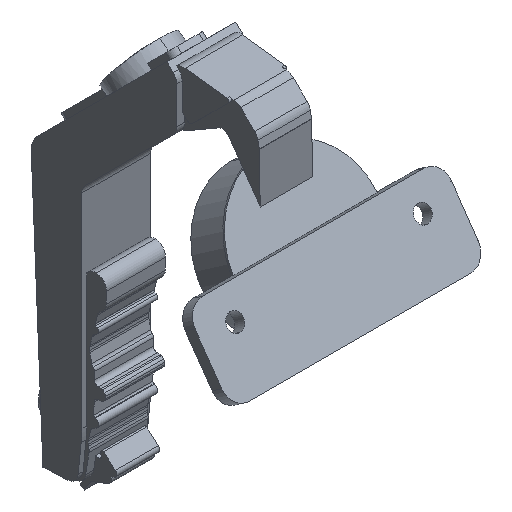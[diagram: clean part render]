
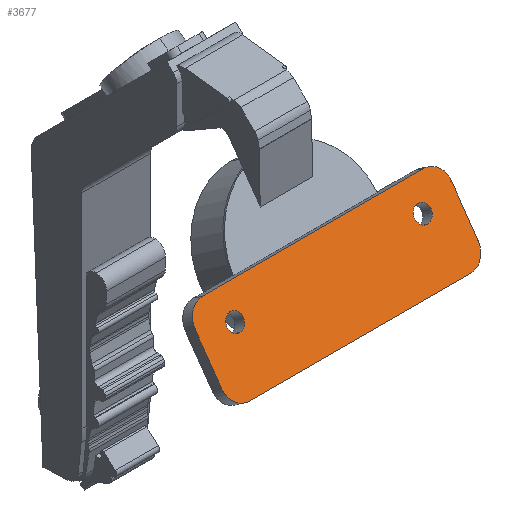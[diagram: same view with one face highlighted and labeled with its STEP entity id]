
A CAD part, isometric view. The second image highlights one B-rep face of the part: STEP entity #3677.
In plain terms, the highlighted planar face has unit normal (0, -0.822, 0.569).
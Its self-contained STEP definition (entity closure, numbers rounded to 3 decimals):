
#61 = ORIENTED_EDGE ( 'NONE', *, *, #4697, .T. ) ;
#73 = LINE ( 'NONE', #501, #524 ) ;
#77 = DIRECTION ( 'NONE',  ( 0., -0.822, 0.569 ) ) ;
#78 = AXIS2_PLACEMENT_3D ( 'NONE', #5020, #2570, #4207 ) ;
#109 = LINE ( 'NONE', #1730, #1526 ) ;
#138 = ORIENTED_EDGE ( 'NONE', *, *, #1751, .T. ) ;
#162 = DIRECTION ( 'NONE',  ( 0., -0.569, -0.822 ) ) ;
#178 = EDGE_CURVE ( 'NONE', #5320, #2397, #2183, .T. ) ;
#218 = CARTESIAN_POINT ( 'NONE',  ( -24., -52.951, 60.583 ) ) ;
#315 = FACE_OUTER_BOUND ( 'NONE', #2088, .T. ) ;
#353 = VERTEX_POINT ( 'NONE', #4187 ) ;
#501 = CARTESIAN_POINT ( 'NONE',  ( 35.3, -62.337, 47.012 ) ) ;
#524 = VECTOR ( 'NONE', #4969, 1000. ) ;
#565 = EDGE_CURVE ( 'NONE', #353, #2168, #1514, .T. ) ;
#569 = CARTESIAN_POINT ( 'NONE',  ( -15.2, -54.43, 58.444 ) ) ;
#603 = CARTESIAN_POINT ( 'NONE',  ( 32.8, -53.235, 60.171 ) ) ;
#607 = ORIENTED_EDGE ( 'NONE', *, *, #1105, .T. ) ;
#673 = DIRECTION ( 'NONE',  ( 0., -0.822, 0.569 ) ) ;
#793 = ORIENTED_EDGE ( 'NONE', *, *, #3395, .F. ) ;
#842 = LINE ( 'NONE', #4145, #944 ) ;
#869 = DIRECTION ( 'NONE',  ( 0., -0.569, -0.822 ) ) ;
#896 = DIRECTION ( 'NONE',  ( 0., -0.569, -0.822 ) ) ;
#944 = VECTOR ( 'NONE', #2925, 1000. ) ;
#995 = VERTEX_POINT ( 'NONE', #218 ) ;
#998 = CARTESIAN_POINT ( 'NONE',  ( -24., -59.777, 50.713 ) ) ;
#1052 = CARTESIAN_POINT ( 'NONE',  ( 41.6, -52.951, 60.583 ) ) ;
#1096 = ORIENTED_EDGE ( 'NONE', *, *, #3801, .T. ) ;
#1105 = EDGE_CURVE ( 'NONE', #2348, #995, #1194, .T. ) ;
#1133 = EDGE_LOOP ( 'NONE', ( #2453, #3990 ) ) ;
#1153 = CARTESIAN_POINT ( 'NONE',  ( 41.6, -59.777, 50.713 ) ) ;
#1194 = CIRCLE ( 'NONE', #1880, 4.5 ) ;
#1212 = DIRECTION ( 'NONE',  ( -1., 0., 0. ) ) ;
#1285 = DIRECTION ( 'NONE',  ( 0., -0.822, 0.569 ) ) ;
#1303 = VERTEX_POINT ( 'NONE', #1657 ) ;
#1456 = AXIS2_PLACEMENT_3D ( 'NONE', #5077, #77, #896 ) ;
#1502 = VERTEX_POINT ( 'NONE', #1153 ) ;
#1514 = CIRCLE ( 'NONE', #1871, 2.1 ) ;
#1526 = VECTOR ( 'NONE', #4625, 1000. ) ;
#1561 = PLANE ( 'NONE',  #5282 ) ;
#1564 = VERTEX_POINT ( 'NONE', #3364 ) ;
#1566 = AXIS2_PLACEMENT_3D ( 'NONE', #3719, #1659, #3305 ) ;
#1657 = CARTESIAN_POINT ( 'NONE',  ( -15.2, -53.235, 60.171 ) ) ;
#1659 = DIRECTION ( 'NONE',  ( 0., -0.822, 0.569 ) ) ;
#1730 = CARTESIAN_POINT ( 'NONE',  ( 35.3, -50.391, 64.284 ) ) ;
#1733 = VECTOR ( 'NONE', #2018, 1000. ) ;
#1751 = EDGE_CURVE ( 'NONE', #2397, #2348, #109, .T. ) ;
#1770 = VERTEX_POINT ( 'NONE', #3421 ) ;
#1800 = CIRCLE ( 'NONE', #3880, 2.1 ) ;
#1841 = CARTESIAN_POINT ( 'NONE',  ( -19.5, -59.777, 50.713 ) ) ;
#1871 = AXIS2_PLACEMENT_3D ( 'NONE', #3467, #3007, #4716 ) ;
#1876 = CARTESIAN_POINT ( 'NONE',  ( -19.5, -62.337, 47.012 ) ) ;
#1880 = AXIS2_PLACEMENT_3D ( 'NONE', #3248, #673, #2015 ) ;
#2015 = DIRECTION ( 'NONE',  ( 0., -0.569, -0.822 ) ) ;
#2018 = DIRECTION ( 'NONE',  ( 0., 0.569, 0.822 ) ) ;
#2059 = EDGE_CURVE ( 'NONE', #1564, #1502, #2329, .T. ) ;
#2088 = EDGE_LOOP ( 'NONE', ( #61, #1096, #3802, #3025, #5206, #138, #607, #3504 ) ) ;
#2165 = EDGE_CURVE ( 'NONE', #1770, #1303, #1800, .T. ) ;
#2168 = VERTEX_POINT ( 'NONE', #603 ) ;
#2183 = CIRCLE ( 'NONE', #1566, 4.5 ) ;
#2197 = CARTESIAN_POINT ( 'NONE',  ( 32.8, -54.43, 58.444 ) ) ;
#2329 = CIRCLE ( 'NONE', #78, 4.5 ) ;
#2348 = VERTEX_POINT ( 'NONE', #4317 ) ;
#2397 = VERTEX_POINT ( 'NONE', #5129 ) ;
#2453 = ORIENTED_EDGE ( 'NONE', *, *, #2165, .F. ) ;
#2570 = DIRECTION ( 'NONE',  ( 0., -0.822, 0.569 ) ) ;
#2608 = CIRCLE ( 'NONE', #3735, 2.1 ) ;
#2925 = DIRECTION ( 'NONE',  ( 0., -0.569, -0.822 ) ) ;
#3006 = DIRECTION ( 'NONE',  ( 0., -0.822, 0.569 ) ) ;
#3007 = DIRECTION ( 'NONE',  ( 0., -0.822, 0.569 ) ) ;
#3025 = ORIENTED_EDGE ( 'NONE', *, *, #3290, .T. ) ;
#3152 = VERTEX_POINT ( 'NONE', #998 ) ;
#3248 = CARTESIAN_POINT ( 'NONE',  ( -19.5, -52.951, 60.583 ) ) ;
#3290 = EDGE_CURVE ( 'NONE', #1502, #5320, #4443, .T. ) ;
#3305 = DIRECTION ( 'NONE',  ( 0., -0.569, -0.822 ) ) ;
#3364 = CARTESIAN_POINT ( 'NONE',  ( 37.1, -62.337, 47.012 ) ) ;
#3395 = EDGE_CURVE ( 'NONE', #2168, #353, #2608, .T. ) ;
#3421 = CARTESIAN_POINT ( 'NONE',  ( -15.2, -55.624, 56.717 ) ) ;
#3455 = EDGE_CURVE ( 'NONE', #1303, #1770, #3634, .T. ) ;
#3467 = CARTESIAN_POINT ( 'NONE',  ( 32.8, -54.43, 58.444 ) ) ;
#3504 = ORIENTED_EDGE ( 'NONE', *, *, #5002, .T. ) ;
#3539 = DIRECTION ( 'NONE',  ( 0., -0.822, 0.569 ) ) ;
#3595 = CARTESIAN_POINT ( 'NONE',  ( 41.6, -59.777, 50.713 ) ) ;
#3615 = DIRECTION ( 'NONE',  ( 0., -0.822, 0.569 ) ) ;
#3634 = CIRCLE ( 'NONE', #1456, 2.1 ) ;
#3677 = ADVANCED_FACE ( 'NONE', ( #315, #5240, #4919 ), #1561, .T. ) ;
#3719 = CARTESIAN_POINT ( 'NONE',  ( 37.1, -52.951, 60.583 ) ) ;
#3735 = AXIS2_PLACEMENT_3D ( 'NONE', #2197, #1285, #869 ) ;
#3801 = EDGE_CURVE ( 'NONE', #3970, #1564, #73, .T. ) ;
#3802 = ORIENTED_EDGE ( 'NONE', *, *, #2059, .T. ) ;
#3880 = AXIS2_PLACEMENT_3D ( 'NONE', #569, #3006, #4715 ) ;
#3889 = CIRCLE ( 'NONE', #3964, 4.5 ) ;
#3964 = AXIS2_PLACEMENT_3D ( 'NONE', #1841, #3539, #162 ) ;
#3970 = VERTEX_POINT ( 'NONE', #1876 ) ;
#3990 = ORIENTED_EDGE ( 'NONE', *, *, #3455, .F. ) ;
#4056 = CARTESIAN_POINT ( 'NONE',  ( 21.6, -52.394, 61.387 ) ) ;
#4145 = CARTESIAN_POINT ( 'NONE',  ( -24., -52.951, 60.583 ) ) ;
#4187 = CARTESIAN_POINT ( 'NONE',  ( 32.8, -55.624, 56.717 ) ) ;
#4191 = ORIENTED_EDGE ( 'NONE', *, *, #565, .F. ) ;
#4207 = DIRECTION ( 'NONE',  ( 0., -0.569, -0.822 ) ) ;
#4282 = EDGE_LOOP ( 'NONE', ( #4191, #793 ) ) ;
#4317 = CARTESIAN_POINT ( 'NONE',  ( -19.5, -50.391, 64.284 ) ) ;
#4443 = LINE ( 'NONE', #3595, #1733 ) ;
#4625 = DIRECTION ( 'NONE',  ( -1., 0., 0. ) ) ;
#4697 = EDGE_CURVE ( 'NONE', #3152, #3970, #3889, .T. ) ;
#4715 = DIRECTION ( 'NONE',  ( 0., -0.569, -0.822 ) ) ;
#4716 = DIRECTION ( 'NONE',  ( 0., -0.569, -0.822 ) ) ;
#4919 = FACE_BOUND ( 'NONE', #4282, .T. ) ;
#4969 = DIRECTION ( 'NONE',  ( 1., 0., 0. ) ) ;
#5002 = EDGE_CURVE ( 'NONE', #995, #3152, #842, .T. ) ;
#5020 = CARTESIAN_POINT ( 'NONE',  ( 37.1, -59.777, 50.713 ) ) ;
#5077 = CARTESIAN_POINT ( 'NONE',  ( -15.2, -54.43, 58.444 ) ) ;
#5129 = CARTESIAN_POINT ( 'NONE',  ( 37.1, -50.391, 64.284 ) ) ;
#5206 = ORIENTED_EDGE ( 'NONE', *, *, #178, .T. ) ;
#5240 = FACE_BOUND ( 'NONE', #1133, .T. ) ;
#5282 = AXIS2_PLACEMENT_3D ( 'NONE', #4056, #3615, #1212 ) ;
#5320 = VERTEX_POINT ( 'NONE', #1052 ) ;
